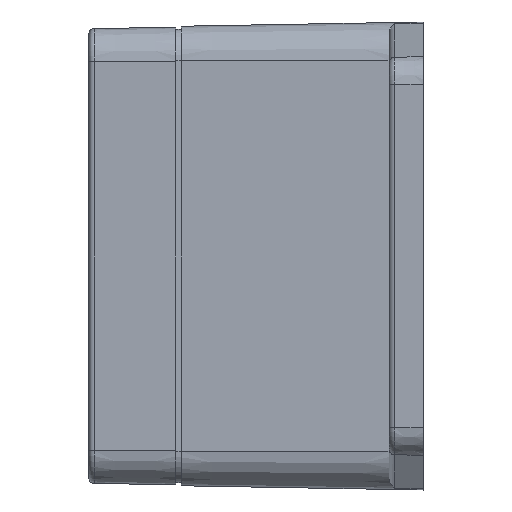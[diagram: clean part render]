
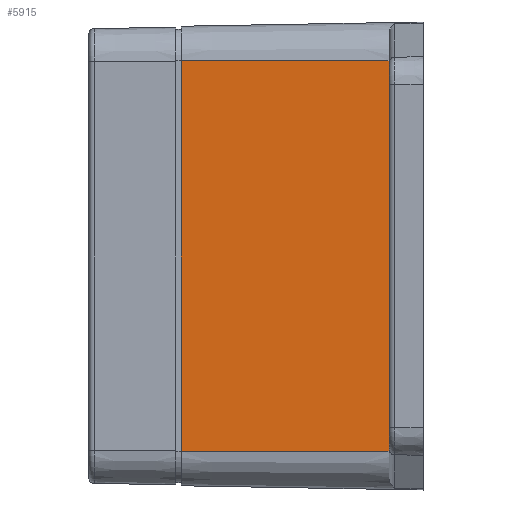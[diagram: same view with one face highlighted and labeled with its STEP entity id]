
A CAD part, left-side view. The second image highlights one B-rep face of the part: STEP entity #5915.
In plain terms, the highlighted planar face has unit normal (-1, 0.018, 0).
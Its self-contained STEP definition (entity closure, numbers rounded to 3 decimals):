
#1683 = DIRECTION ( 'NONE',  ( -1., 0.017, 0. ) ) ;
#1748 = LINE ( 'NONE', #17011, #18290 ) ;
#2310 = VERTEX_POINT ( 'NONE', #20517 ) ;
#2527 = EDGE_CURVE ( 'NONE', #11916, #2310, #41798, .T. ) ;
#5492 = AXIS2_PLACEMENT_3D ( 'NONE', #24743, #1683, #41172 ) ;
#5915 = ADVANCED_FACE ( 'NONE', ( #20924 ), #34211, .T. ) ;
#7492 = VERTEX_POINT ( 'NONE', #30605 ) ;
#8015 = EDGE_CURVE ( 'NONE', #7492, #11916, #9402, .T. ) ;
#9402 = LINE ( 'NONE', #9617, #17464 ) ;
#9617 = CARTESIAN_POINT ( 'NONE',  ( -80.651, -37.3, 34.15 ) ) ;
#9836 = CARTESIAN_POINT ( 'NONE',  ( -80., 0., 34.15 ) ) ;
#11916 = VERTEX_POINT ( 'NONE', #28979 ) ;
#13343 = ORIENTED_EDGE ( 'NONE', *, *, #41379, .T. ) ;
#15089 = VECTOR ( 'NONE', #22986, 1000. ) ;
#17011 = CARTESIAN_POINT ( 'NONE',  ( -80.017, -1., 34.15 ) ) ;
#17464 = VECTOR ( 'NONE', #25273, 1000. ) ;
#18290 = VECTOR ( 'NONE', #36415, 1000. ) ;
#19256 = EDGE_CURVE ( 'NONE', #21749, #2310, #1748, .T. ) ;
#20517 = CARTESIAN_POINT ( 'NONE',  ( -80.017, -1., -34.15 ) ) ;
#20924 = FACE_OUTER_BOUND ( 'NONE', #38881, .T. ) ;
#21615 = ORIENTED_EDGE ( 'NONE', *, *, #19256, .T. ) ;
#21749 = VERTEX_POINT ( 'NONE', #23643 ) ;
#22986 = DIRECTION ( 'NONE',  ( 0.017, 1., 0. ) ) ;
#23643 = CARTESIAN_POINT ( 'NONE',  ( -80.017, -1., 34.15 ) ) ;
#24231 = LINE ( 'NONE', #9836, #27825 ) ;
#24743 = CARTESIAN_POINT ( 'NONE',  ( -80., 0., 34.15 ) ) ;
#25273 = DIRECTION ( 'NONE',  ( 0., 0., -1. ) ) ;
#25477 = DIRECTION ( 'NONE',  ( 0.017, 1., 0. ) ) ;
#27825 = VECTOR ( 'NONE', #25477, 1000. ) ;
#28979 = CARTESIAN_POINT ( 'NONE',  ( -80.651, -37.3, -34.15 ) ) ;
#29100 = CARTESIAN_POINT ( 'NONE',  ( -80., 0., -34.15 ) ) ;
#30605 = CARTESIAN_POINT ( 'NONE',  ( -80.651, -37.3, 34.15 ) ) ;
#33707 = ORIENTED_EDGE ( 'NONE', *, *, #2527, .F. ) ;
#34211 = PLANE ( 'NONE',  #5492 ) ;
#36415 = DIRECTION ( 'NONE',  ( 0., 0., -1. ) ) ;
#37350 = ORIENTED_EDGE ( 'NONE', *, *, #8015, .F. ) ;
#38881 = EDGE_LOOP ( 'NONE', ( #13343, #21615, #33707, #37350 ) ) ;
#41172 = DIRECTION ( 'NONE',  ( -0.017, -1., 0. ) ) ;
#41379 = EDGE_CURVE ( 'NONE', #7492, #21749, #24231, .T. ) ;
#41798 = LINE ( 'NONE', #29100, #15089 ) ;
